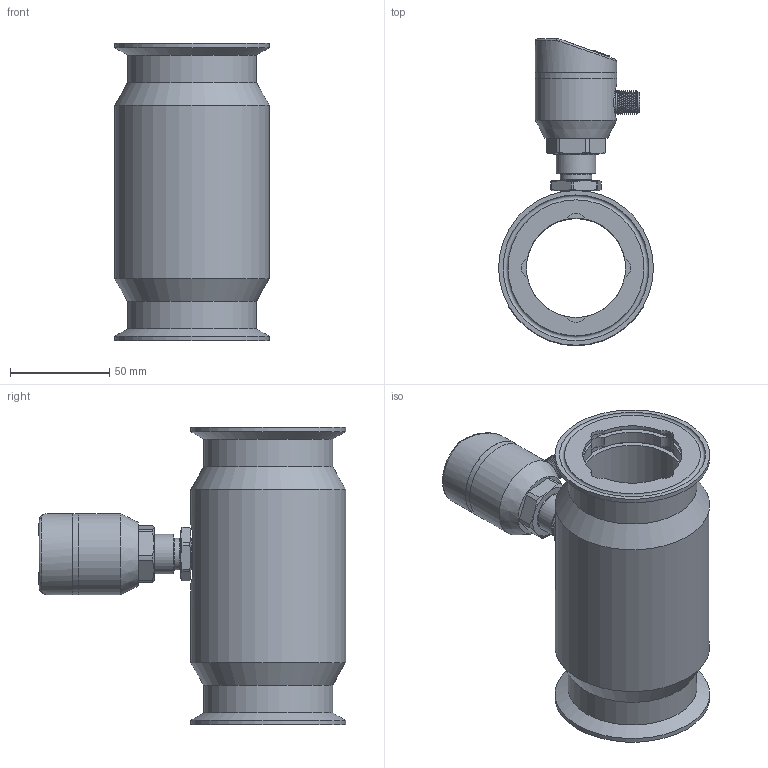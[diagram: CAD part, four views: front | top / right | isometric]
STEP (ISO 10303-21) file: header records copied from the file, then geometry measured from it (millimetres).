
FILE_DESCRIPTION( (''), '2;1');
FILE_NAME( 'QTKA_DN50_tri-clamp.step', '2024-01-11T14:27:09+08:00', (''), (''), '', '', '');
FILE_SCHEMA (('AUTOMOTIVE_DESIGN { 1 0 10303 214 3 1 1 1 }'));
Length unit declared in the file: millimetre
Products named in the file (1): QTKA DN50_tri-clamp
Bounding box: 78 x 154.8 x 150 mm (x, y, z)
Volume: 421509.8 mm3; surface area: 121296.3 mm2
Topology: 9 solids, 13 shells, 898 faces, 2169 edges, 1366 vertices
Faces by surface type: plane 316, cylinder 309, cone 99, bspline 82, torus 80, sphere 12
Full cylindrical faces by diameter (mm): 1 x10, 2.7 x8, 8.4 x2, 9.7 x2, 9.8 x2, 10.1 x2, 11.6 x2, 12 x2, 15.9 x2, 17.581 x1, 20 x2, 23 x6, 26 x8, 26.1 x2, 37 x2, 41 x6, 50 x1, 55 x4, 65 x2, 78 x3
Entity records: 59524 total; most frequent: CARTESIAN_POINT 36774, DIRECTION 4094, ORIENTED_EDGE 3964, EDGE_CURVE 1982, AXIS2_PLACEMENT_3D 1657, VERTEX_POINT 1295, EDGE_LOOP 1093, ADVANCED_FACE 894
